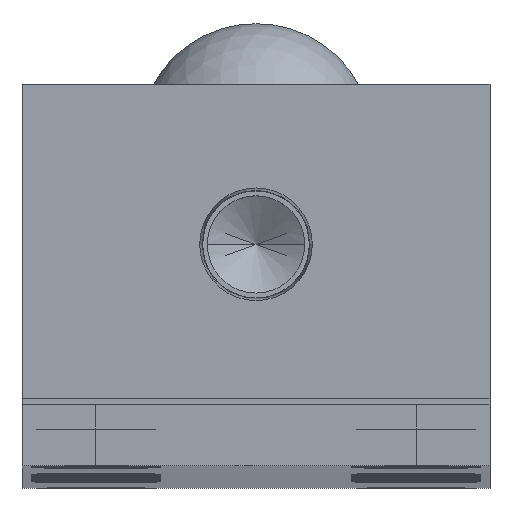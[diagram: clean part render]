
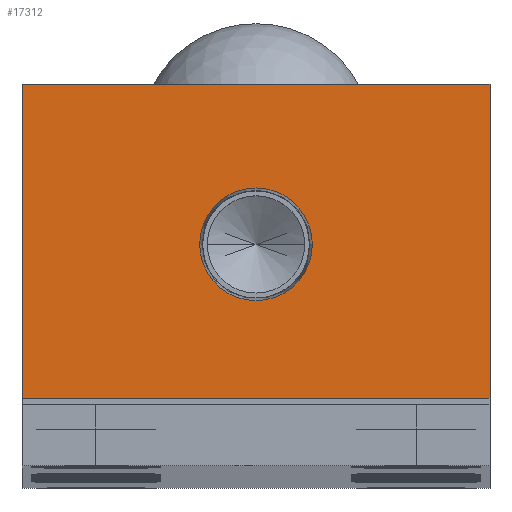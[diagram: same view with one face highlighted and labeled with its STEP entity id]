
A CAD part, top view. The second image highlights one B-rep face of the part: STEP entity #17312.
In plain terms, the highlighted planar face has unit normal (0, 0, 1).
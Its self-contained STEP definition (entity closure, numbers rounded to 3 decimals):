
#43 = EDGE_LOOP ( 'NONE', ( #10943, #15138 ) ) ;
#101 = FACE_OUTER_BOUND ( 'NONE', #10377, .T. ) ;
#215 = AXIS2_PLACEMENT_3D ( 'NONE', #9878, #22481, #11700 ) ;
#519 = AXIS2_PLACEMENT_3D ( 'NONE', #18658, #2392, #15101 ) ;
#573 = CARTESIAN_POINT ( 'NONE',  ( 4.574, 18., 0. ) ) ;
#1504 = VECTOR ( 'NONE', #5780, 1000. ) ;
#2074 = LINE ( 'NONE', #3970, #1504 ) ;
#2288 = CIRCLE ( 'NONE', #23473, 4.574 ) ;
#2347 = VERTEX_POINT ( 'NONE', #21145 ) ;
#2392 = DIRECTION ( 'NONE',  ( 0., 0., 1. ) ) ;
#2404 = ORIENTED_EDGE ( 'NONE', *, *, #5176, .T. ) ;
#3447 = CARTESIAN_POINT ( 'NONE',  ( -19., 31., 0. ) ) ;
#3970 = CARTESIAN_POINT ( 'NONE',  ( 19., 31., 0. ) ) ;
#4921 = FACE_BOUND ( 'NONE', #43, .T. ) ;
#5176 = EDGE_CURVE ( 'NONE', #19561, #2347, #8059, .T. ) ;
#5214 = DIRECTION ( 'NONE',  ( 0., 0., 1. ) ) ;
#5345 = CARTESIAN_POINT ( 'NONE',  ( 19., 31., 0. ) ) ;
#5780 = DIRECTION ( 'NONE',  ( -1., 0., 0. ) ) ;
#6922 = CARTESIAN_POINT ( 'NONE',  ( -19., 31., 0. ) ) ;
#7747 = VERTEX_POINT ( 'NONE', #13308 ) ;
#7891 = ORIENTED_EDGE ( 'NONE', *, *, #9518, .T. ) ;
#8059 = LINE ( 'NONE', #8703, #16566 ) ;
#8574 = CARTESIAN_POINT ( 'NONE',  ( 19., 5.5, 0. ) ) ;
#8703 = CARTESIAN_POINT ( 'NONE',  ( 19., 5.5, 0. ) ) ;
#9518 = EDGE_CURVE ( 'NONE', #2347, #16556, #19188, .T. ) ;
#9579 = VECTOR ( 'NONE', #17595, 1000. ) ;
#9619 = CARTESIAN_POINT ( 'NONE',  ( -19., 5.5, 0. ) ) ;
#9878 = CARTESIAN_POINT ( 'NONE',  ( 0., 18., 0. ) ) ;
#10377 = EDGE_LOOP ( 'NONE', ( #2404, #7891, #21711, #10894 ) ) ;
#10894 = ORIENTED_EDGE ( 'NONE', *, *, #12214, .T. ) ;
#10943 = ORIENTED_EDGE ( 'NONE', *, *, #16823, .F. ) ;
#11700 = DIRECTION ( 'NONE',  ( 1., 0., 0. ) ) ;
#12214 = EDGE_CURVE ( 'NONE', #22229, #19561, #12659, .T. ) ;
#12659 = LINE ( 'NONE', #3447, #16911 ) ;
#13276 = PLANE ( 'NONE',  #519 ) ;
#13308 = CARTESIAN_POINT ( 'NONE',  ( -4.574, 18., 0. ) ) ;
#14008 = DIRECTION ( 'NONE',  ( 0., -1., 0. ) ) ;
#15101 = DIRECTION ( 'NONE',  ( 1., 0., 0. ) ) ;
#15138 = ORIENTED_EDGE ( 'NONE', *, *, #20091, .F. ) ;
#15199 = CIRCLE ( 'NONE', #215, 4.574 ) ;
#16097 = CARTESIAN_POINT ( 'NONE',  ( 0., 18., 0. ) ) ;
#16556 = VERTEX_POINT ( 'NONE', #5345 ) ;
#16566 = VECTOR ( 'NONE', #23141, 1000. ) ;
#16823 = EDGE_CURVE ( 'NONE', #18522, #7747, #15199, .T. ) ;
#16911 = VECTOR ( 'NONE', #14008, 1000. ) ;
#17312 = ADVANCED_FACE ( 'NONE', ( #4921, #101 ), #13276, .T. ) ;
#17595 = DIRECTION ( 'NONE',  ( 0., 1., 0. ) ) ;
#17850 = EDGE_CURVE ( 'NONE', #16556, #22229, #2074, .T. ) ;
#17909 = DIRECTION ( 'NONE',  ( 1., 0., 0. ) ) ;
#18522 = VERTEX_POINT ( 'NONE', #573 ) ;
#18658 = CARTESIAN_POINT ( 'NONE',  ( 0., 0., 0. ) ) ;
#19188 = LINE ( 'NONE', #8574, #9579 ) ;
#19561 = VERTEX_POINT ( 'NONE', #9619 ) ;
#20091 = EDGE_CURVE ( 'NONE', #7747, #18522, #2288, .T. ) ;
#21145 = CARTESIAN_POINT ( 'NONE',  ( 19., 5.5, 0. ) ) ;
#21711 = ORIENTED_EDGE ( 'NONE', *, *, #17850, .T. ) ;
#22229 = VERTEX_POINT ( 'NONE', #6922 ) ;
#22481 = DIRECTION ( 'NONE',  ( 0., 0., 1. ) ) ;
#23141 = DIRECTION ( 'NONE',  ( 1., 0., 0. ) ) ;
#23473 = AXIS2_PLACEMENT_3D ( 'NONE', #16097, #5214, #17909 ) ;
